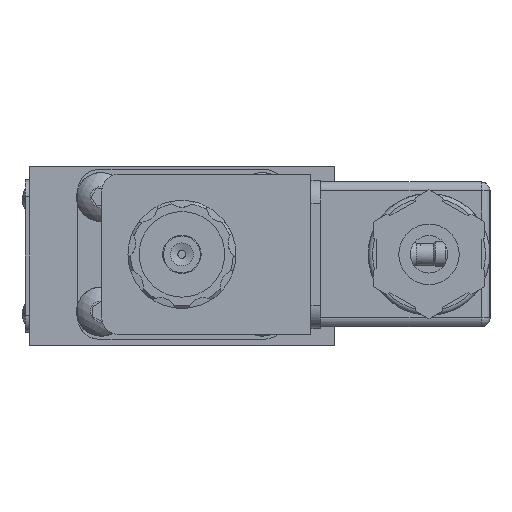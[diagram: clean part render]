
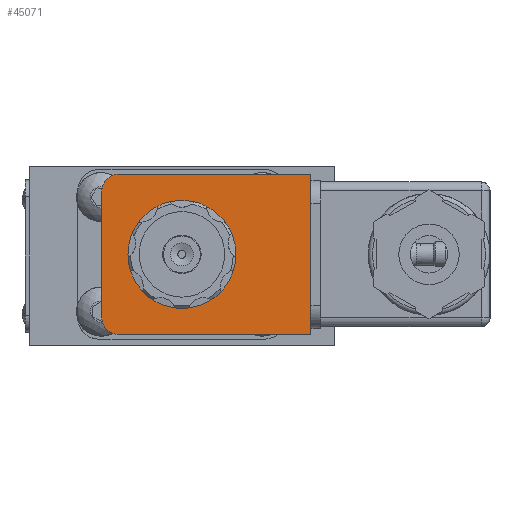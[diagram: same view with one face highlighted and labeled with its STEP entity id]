
A CAD part, left-side view. The second image highlights one B-rep face of the part: STEP entity #45071.
In plain terms, the highlighted planar face has unit normal (-1, 0, 0).
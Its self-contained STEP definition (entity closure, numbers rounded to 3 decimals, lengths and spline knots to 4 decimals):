
#1440=FACE_BOUND('',#7207,.T.);
#2253=PLANE('',#49387);
#4444=FACE_OUTER_BOUND('',#7206,.T.);
#7206=EDGE_LOOP('',(#35740,#35741,#35742,#35743,#35744,#35745));
#7207=EDGE_LOOP('',(#35746));
#9844=CIRCLE('',#49174,1.01);
#9898=CIRCLE('',#49266,0.3175);
#9901=CIRCLE('',#49271,0.3175);
#12526=LINE('',#76506,#15852);
#12532=LINE('',#76518,#15858);
#12536=LINE('',#76530,#15862);
#12625=LINE('',#76843,#15951);
#15852=VECTOR('',#59233,1.);
#15858=VECTOR('',#59241,1.);
#15862=VECTOR('',#59253,1.);
#15951=VECTOR('',#59580,1.);
#19785=VERTEX_POINT('',#76255);
#19847=VERTEX_POINT('',#76502);
#19849=VERTEX_POINT('',#76505);
#19852=VERTEX_POINT('',#76512);
#19854=VERTEX_POINT('',#76516);
#19855=VERTEX_POINT('',#76520);
#19858=VERTEX_POINT('',#76527);
#25215=EDGE_CURVE('',#19785,#19785,#9844,.T.);
#25311=EDGE_CURVE('',#19847,#19849,#12526,.T.);
#25317=EDGE_CURVE('',#19852,#19854,#12532,.T.);
#25318=EDGE_CURVE('',#19852,#19855,#9898,.T.);
#25323=EDGE_CURVE('',#19855,#19858,#12536,.T.);
#25325=EDGE_CURVE('',#19858,#19847,#9901,.T.);
#25483=EDGE_CURVE('',#19854,#19849,#12625,.T.);
#35740=ORIENTED_EDGE('',*,*,#25325,.F.);
#35741=ORIENTED_EDGE('',*,*,#25323,.F.);
#35742=ORIENTED_EDGE('',*,*,#25318,.F.);
#35743=ORIENTED_EDGE('',*,*,#25317,.T.);
#35744=ORIENTED_EDGE('',*,*,#25483,.T.);
#35745=ORIENTED_EDGE('',*,*,#25311,.F.);
#35746=ORIENTED_EDGE('',*,*,#25215,.T.);
#45071=ADVANCED_FACE('',(#4444,#1440),#2253,.T.);
#49174=AXIS2_PLACEMENT_3D('',#76256,#59029,#59030);
#49266=AXIS2_PLACEMENT_3D('',#76521,#59244,#59245);
#49271=AXIS2_PLACEMENT_3D('',#76533,#59258,#59259);
#49387=AXIS2_PLACEMENT_3D('',#76842,#59578,#59579);
#59029=DIRECTION('center_axis',(1.,0.,0.));
#59030=DIRECTION('ref_axis',(0.,1.,0.));
#59233=DIRECTION('',(0.,-1.,0.));
#59241=DIRECTION('',(0.,-1.,0.));
#59244=DIRECTION('center_axis',(1.,0.,0.));
#59245=DIRECTION('ref_axis',(0.,0.707,-0.707));
#59253=DIRECTION('',(0.,0.,1.));
#59258=DIRECTION('center_axis',(1.,0.,0.));
#59259=DIRECTION('ref_axis',(0.,0.707,0.707));
#59578=DIRECTION('center_axis',(-1.,0.,0.));
#59579=DIRECTION('ref_axis',(0.,-1.,0.));
#59580=DIRECTION('',(0.,0.,1.));
#76255=CARTESIAN_POINT('',(-9.8649,-1.01,0.0305));
#76256=CARTESIAN_POINT('Origin',(-9.8649,0.,
0.0305));
#76502=CARTESIAN_POINT('',(-9.8649,1.1811,1.5305));
#76505=CARTESIAN_POINT('',(-9.8649,-2.413,1.5305));
#76506=CARTESIAN_POINT('',(-9.8649,1.4986,1.5305));
#76512=CARTESIAN_POINT('',(-9.8649,1.1811,-1.4695));
#76516=CARTESIAN_POINT('',(-9.8649,-2.413,-1.4695));
#76518=CARTESIAN_POINT('',(-9.8649,1.4986,-1.4695));
#76520=CARTESIAN_POINT('',(-9.8649,1.4986,-1.152));
#76521=CARTESIAN_POINT('Origin',(-9.8649,1.1811,-1.152));
#76527=CARTESIAN_POINT('',(-9.8649,1.4986,1.213));
#76530=CARTESIAN_POINT('',(-9.8649,1.4986,-1.4695));
#76533=CARTESIAN_POINT('Origin',(-9.8649,1.1811,1.213));
#76842=CARTESIAN_POINT('Origin',(-9.8649,1.4986,-1.4695));
#76843=CARTESIAN_POINT('',(-9.8649,-2.413,-1.4695));
